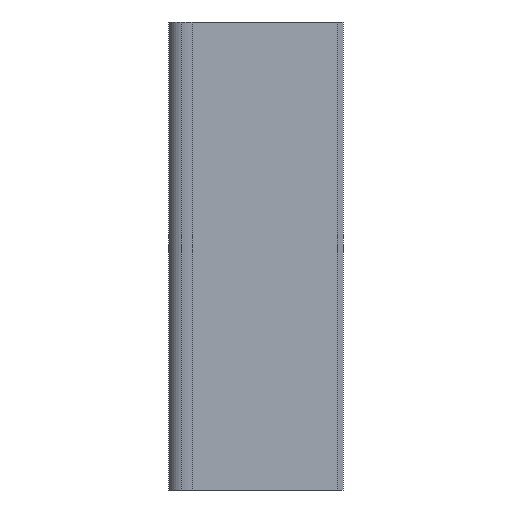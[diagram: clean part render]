
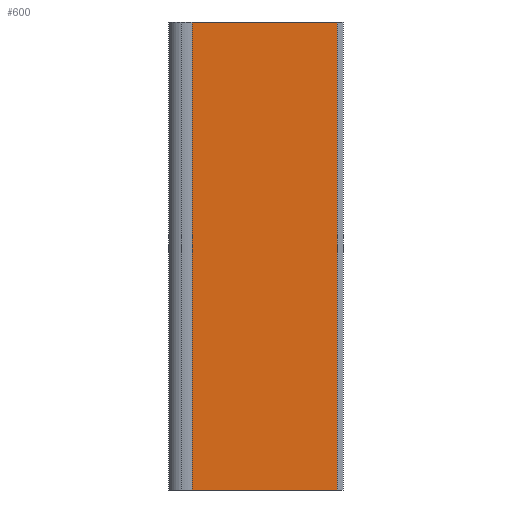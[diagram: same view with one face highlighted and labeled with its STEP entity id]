
A CAD part, left-side view. The second image highlights one B-rep face of the part: STEP entity #600.
In plain terms, the highlighted planar face has unit normal (-1, 0, 0).
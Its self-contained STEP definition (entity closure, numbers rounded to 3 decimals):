
#12 = LINE ( 'NONE', #1011, #16 ) ;
#16 = VECTOR ( 'NONE', #1017, 1000. ) ;
#118 = FACE_OUTER_BOUND ( 'NONE', #734, .T. ) ;
#131 = ORIENTED_EDGE ( 'NONE', *, *, #1077, .T. ) ;
#220 = CARTESIAN_POINT ( 'NONE',  ( -8.945, -3.6, 0. ) ) ;
#224 = CARTESIAN_POINT ( 'NONE',  ( -8.945, -78.967, 243. ) ) ;
#258 = DIRECTION ( 'NONE',  ( 1., 0., 0. ) ) ;
#259 = DIRECTION ( 'NONE',  ( 0., 1., 0. ) ) ;
#299 = VERTEX_POINT ( 'NONE', #1371 ) ;
#362 = LINE ( 'NONE', #1294, #420 ) ;
#383 = LINE ( 'NONE', #577, #384 ) ;
#384 = VECTOR ( 'NONE', #578, 1000. ) ;
#397 = LINE ( 'NONE', #1245, #398 ) ;
#398 = VECTOR ( 'NONE', #1246, 1000. ) ;
#420 = VECTOR ( 'NONE', #1297, 1000. ) ;
#577 = CARTESIAN_POINT ( 'NONE',  ( -8.945, -3.6, 243. ) ) ;
#578 = DIRECTION ( 'NONE',  ( 0., 0., -1. ) ) ;
#600 = ADVANCED_FACE ( 'NONE', ( #118 ), #1384, .F. ) ;
#714 = ORIENTED_EDGE ( 'NONE', *, *, #1086, .F. ) ;
#715 = ORIENTED_EDGE ( 'NONE', *, *, #1122, .F. ) ;
#716 = ORIENTED_EDGE ( 'NONE', *, *, #1030, .T. ) ;
#734 = EDGE_LOOP ( 'NONE', ( #716, #715, #714, #131 ) ) ;
#929 = VERTEX_POINT ( 'NONE', #994 ) ;
#994 = CARTESIAN_POINT ( 'NONE',  ( -8.945, -3.6, 243. ) ) ;
#1011 = CARTESIAN_POINT ( 'NONE',  ( -8.945, -3.6, 0. ) ) ;
#1017 = DIRECTION ( 'NONE',  ( 0., -1., 0. ) ) ;
#1030 = EDGE_CURVE ( 'NONE', #1358, #299, #12, .T. ) ;
#1077 = EDGE_CURVE ( 'NONE', #929, #1358, #383, .T. ) ;
#1086 = EDGE_CURVE ( 'NONE', #929, #1362, #397, .T. ) ;
#1122 = EDGE_CURVE ( 'NONE', #1362, #299, #362, .T. ) ;
#1201 = AXIS2_PLACEMENT_3D ( 'NONE', #1387, #258, #259 ) ;
#1245 = CARTESIAN_POINT ( 'NONE',  ( -8.945, -3.6, 243. ) ) ;
#1246 = DIRECTION ( 'NONE',  ( 0., -1., 0. ) ) ;
#1294 = CARTESIAN_POINT ( 'NONE',  ( -8.945, -78.967, 243. ) ) ;
#1297 = DIRECTION ( 'NONE',  ( 0., 0., -1. ) ) ;
#1358 = VERTEX_POINT ( 'NONE', #220 ) ;
#1362 = VERTEX_POINT ( 'NONE', #224 ) ;
#1371 = CARTESIAN_POINT ( 'NONE',  ( -8.945, -78.967, 0. ) ) ;
#1384 = PLANE ( 'NONE',  #1201 ) ;
#1387 = CARTESIAN_POINT ( 'NONE',  ( -8.945, -3.6, 243. ) ) ;
